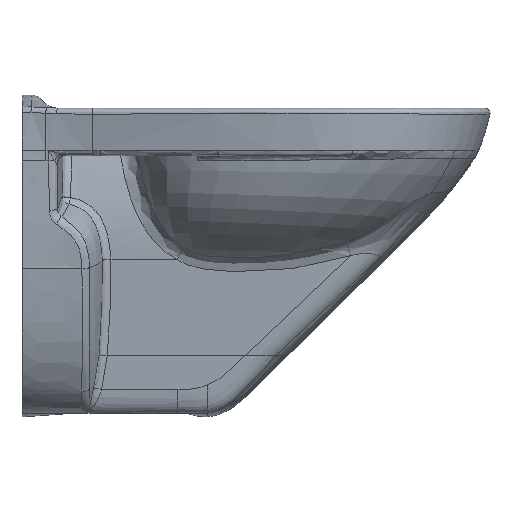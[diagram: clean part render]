
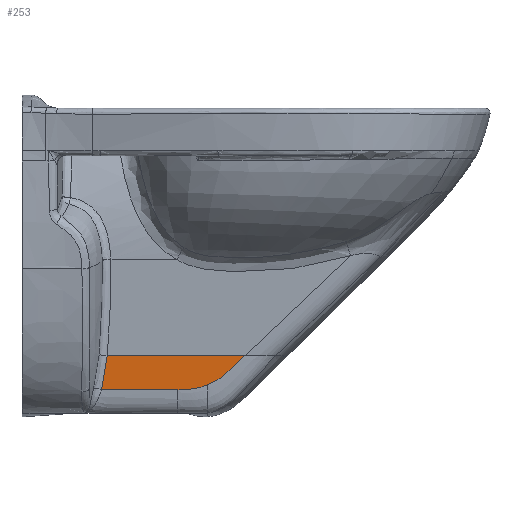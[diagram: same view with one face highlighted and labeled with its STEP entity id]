
A CAD part, left-side view. The second image highlights one B-rep face of the part: STEP entity #253.
In plain terms, the highlighted free-form (B-spline) face has degree [1, 1] with [2, 2] control points.
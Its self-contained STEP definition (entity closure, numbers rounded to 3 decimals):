
#253=ADVANCED_FACE('',(#653),#460,.T.);
#460=B_SPLINE_SURFACE_WITH_KNOTS('',1,1,((#28241,#28242),(#28243,#28244)),
 .UNSPECIFIED.,.F.,.F.,.F.,(2,2),(2,2),(0.,1.),(0.,1.),.UNSPECIFIED.);
#653=FACE_OUTER_BOUND('',#876,.T.);
#876=EDGE_LOOP('',(#1571,#1572,#1573,#1574,#1575,#1576,#1577,#1578));
#1571=ORIENTED_EDGE('',*,*,#3133,.T.);
#1572=ORIENTED_EDGE('',*,*,#3141,.T.);
#1573=ORIENTED_EDGE('',*,*,#2996,.T.);
#1574=ORIENTED_EDGE('',*,*,#3140,.T.);
#1575=ORIENTED_EDGE('',*,*,#3139,.T.);
#1576=ORIENTED_EDGE('',*,*,#3137,.T.);
#1577=ORIENTED_EDGE('',*,*,#3136,.T.);
#1578=ORIENTED_EDGE('',*,*,#3134,.T.);
#2503=VERTEX_POINT('',#15021);
#2504=VERTEX_POINT('',#15024);
#2594=VERTEX_POINT('',#22912);
#2598=VERTEX_POINT('',#24676);
#2599=VERTEX_POINT('',#24694);
#2600=VERTEX_POINT('',#24699);
#2601=VERTEX_POINT('',#26536);
#2602=VERTEX_POINT('',#26539);
#2996=EDGE_CURVE('',#2504,#2503,#3652,.T.);
#3133=EDGE_CURVE('',#2599,#2598,#3784,.T.);
#3134=EDGE_CURVE('',#2600,#2599,#3785,.T.);
#3136=EDGE_CURVE('',#2601,#2600,#3787,.T.);
#3137=EDGE_CURVE('',#2602,#2601,#3788,.T.);
#3139=EDGE_CURVE('',#2594,#2602,#3790,.T.);
#3140=EDGE_CURVE('',#2503,#2594,#3791,.T.);
#3141=EDGE_CURVE('',#2598,#2504,#3792,.T.);
#3652=B_SPLINE_CURVE_WITH_KNOTS('',1,(#15022,#15023),.UNSPECIFIED.,.F.,
 .F.,(2,2),(0.,1.),.UNSPECIFIED.);
#3784=B_SPLINE_CURVE_WITH_KNOTS('',3,(#24677,#24678,#24679,#24680,#24681,
#24682,#24683,#24684,#24685,#24686,#24687,#24688,#24689,#24690,#24691,#24692,
#24693),.UNSPECIFIED.,.F.,.F.,(4,2,2,1,2,2,2,2,4),(0.,0.25,
0.312,0.375,0.5,0.625,
0.75,0.875,1.),.UNSPECIFIED.);
#3785=B_SPLINE_CURVE_WITH_KNOTS('',3,(#24695,#24696,#24697,#24698),
 .UNSPECIFIED.,.F.,.F.,(4,4),(0.,1.),.UNSPECIFIED.);
#3787=B_SPLINE_CURVE_WITH_KNOTS('',3,(#26532,#26533,#26534,#26535),
 .UNSPECIFIED.,.F.,.F.,(4,4),(0.,1.),.UNSPECIFIED.);
#3788=B_SPLINE_CURVE_WITH_KNOTS('',1,(#26537,#26538),.UNSPECIFIED.,.F.,
 .F.,(2,2),(0.,1.),.UNSPECIFIED.);
#3790=B_SPLINE_CURVE_WITH_KNOTS('',1,(#28122,#28123),.UNSPECIFIED.,.F.,
 .F.,(2,2),(0.,1.),.UNSPECIFIED.);
#3791=B_SPLINE_CURVE_WITH_KNOTS('',3,(#28214,#28215,#28216,#28217,#28218,
#28219,#28220,#28221,#28222,#28223,#28224),.UNSPECIFIED.,.F.,.F.,(4,1,1,
1,2,2,4),(0.,0.25,0.375,0.437,0.469,
0.5,1.),.UNSPECIFIED.);
#3792=B_SPLINE_CURVE_WITH_KNOTS('',3,(#28237,#28238,#28239,#28240),
 .UNSPECIFIED.,.F.,.F.,(4,4),(0.,1.),.UNSPECIFIED.);
#15021=CARTESIAN_POINT('',(-48.526,-98.437,-285.417));
#15022=CARTESIAN_POINT('',(-48.526,-257.36,-285.417));
#15023=CARTESIAN_POINT('',(-48.526,-98.437,-285.417));
#15024=CARTESIAN_POINT('',(-48.526,-257.36,-285.417));
#22912=CARTESIAN_POINT('',(-45.337,-91.873,-324.721));
#24676=CARTESIAN_POINT('',(-48.479,-256.716,-286.));
#24677=CARTESIAN_POINT('',(-47.178,-240.251,-302.037));
#24678=CARTESIAN_POINT('',(-47.299,-241.713,-300.546));
#24679=CARTESIAN_POINT('',(-47.41,-243.062,-299.181));
#24680=CARTESIAN_POINT('',(-47.536,-244.608,-297.629));
#24681=CARTESIAN_POINT('',(-47.566,-244.989,-297.248));
#24682=CARTESIAN_POINT('',(-47.623,-245.69,-296.549));
#24683=CARTESIAN_POINT('',(-47.707,-246.728,-295.515));
#24684=CARTESIAN_POINT('',(-47.787,-247.728,-294.53));
#24685=CARTESIAN_POINT('',(-47.89,-249.026,-293.258));
#24686=CARTESIAN_POINT('',(-47.949,-249.768,-292.536));
#24687=CARTESIAN_POINT('',(-48.057,-251.157,-291.197));
#24688=CARTESIAN_POINT('',(-48.11,-251.839,-290.544));
#24689=CARTESIAN_POINT('',(-48.213,-253.182,-289.272));
#24690=CARTESIAN_POINT('',(-48.269,-253.912,-288.586));
#24691=CARTESIAN_POINT('',(-48.376,-255.326,-287.272));
#24692=CARTESIAN_POINT('',(-48.428,-256.025,-286.629));
#24693=CARTESIAN_POINT('',(-48.479,-256.716,-286.));
#24694=CARTESIAN_POINT('',(-47.178,-240.251,-302.037));
#24695=CARTESIAN_POINT('',(-45.771,-214.251,-319.378));
#24696=CARTESIAN_POINT('',(-46.087,-223.999,-315.481));
#24697=CARTESIAN_POINT('',(-46.57,-232.897,-309.534));
#24698=CARTESIAN_POINT('',(-47.178,-240.251,-302.037));
#24699=CARTESIAN_POINT('',(-45.771,-214.251,-319.378));
#26532=CARTESIAN_POINT('',(-45.338,-186.559,-324.721));
#26533=CARTESIAN_POINT('',(-45.338,-196.024,-324.721));
#26534=CARTESIAN_POINT('',(-45.486,-205.456,-322.894));
#26535=CARTESIAN_POINT('',(-45.771,-214.251,-319.378));
#26536=CARTESIAN_POINT('',(-45.338,-186.559,-324.721));
#26537=CARTESIAN_POINT('',(-45.338,-180.,-324.721));
#26538=CARTESIAN_POINT('',(-45.338,-186.559,-324.721));
#26539=CARTESIAN_POINT('',(-45.338,-180.,-324.721));
#28122=CARTESIAN_POINT('',(-45.338,-91.873,-324.721));
#28123=CARTESIAN_POINT('',(-45.338,-180.,-324.721));
#28214=CARTESIAN_POINT('',(-48.526,-98.437,-285.417));
#28215=CARTESIAN_POINT('',(-48.247,-98.068,-288.865));
#28216=CARTESIAN_POINT('',(-47.836,-97.46,-293.92));
#28217=CARTESIAN_POINT('',(-47.374,-96.654,-299.615));
#28218=CARTESIAN_POINT('',(-47.148,-96.227,-302.411));
#28219=CARTESIAN_POINT('',(-47.051,-96.038,-303.598));
#28220=CARTESIAN_POINT('',(-46.987,-95.912,-304.387));
#28221=CARTESIAN_POINT('',(-46.958,-95.853,-304.75));
#28222=CARTESIAN_POINT('',(-46.374,-94.669,-311.948));
#28223=CARTESIAN_POINT('',(-45.845,-93.365,-318.464));
#28224=CARTESIAN_POINT('',(-45.338,-91.873,-324.721));
#28237=CARTESIAN_POINT('',(-48.479,-256.716,-286.));
#28238=CARTESIAN_POINT('',(-48.495,-256.931,-285.804));
#28239=CARTESIAN_POINT('',(-48.511,-257.146,-285.61));
#28240=CARTESIAN_POINT('',(-48.526,-257.36,-285.417));
#28241=CARTESIAN_POINT('',(-35.014,-347.331,-451.987));
#28242=CARTESIAN_POINT('',(-35.014,-15.49,-451.987));
#28243=CARTESIAN_POINT('',(-49.029,-347.331,-279.218));
#28244=CARTESIAN_POINT('',(-49.029,-15.49,-279.218));
